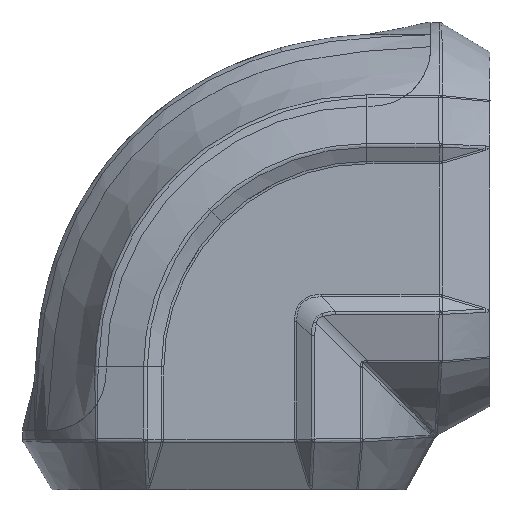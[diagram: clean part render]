
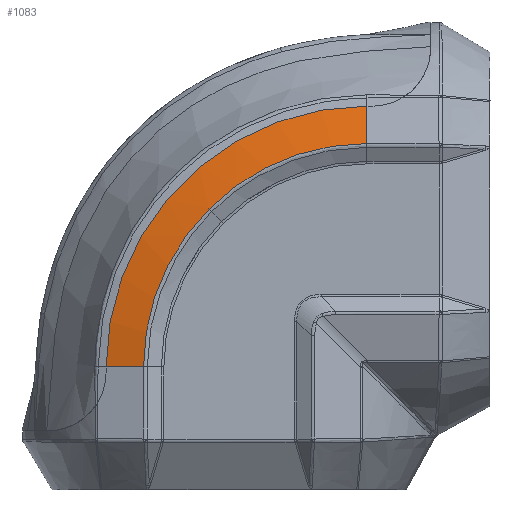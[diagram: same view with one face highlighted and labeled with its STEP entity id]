
A CAD part, front view. The second image highlights one B-rep face of the part: STEP entity #1083.
In plain terms, the highlighted conical face has half-angle 74.358 degrees and reference radius 53 mm.
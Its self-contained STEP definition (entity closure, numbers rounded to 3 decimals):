
#198 = VERTEX_POINT ( 'NONE', #15345 ) ;
#580 = DIRECTION ( 'NONE',  ( 0., 0.27, 0.963 ) ) ;
#954 = VERTEX_POINT ( 'NONE', #40390 ) ;
#1083 = ADVANCED_FACE ( 'NONE', ( #25389 ), #13031, .T. ) ;
#1890 = CARTESIAN_POINT ( 'NONE',  ( 568., -36.187, -28. ) ) ;
#2644 = EDGE_CURVE ( 'NONE', #15959, #954, #43543, .T. ) ;
#2727 = DIRECTION ( 'NONE',  ( 0., 0., 1. ) ) ;
#4968 = CIRCLE ( 'NONE', #13628, 53. ) ;
#5155 = EDGE_CURVE ( 'NONE', #12629, #15959, #8688, .T. ) ;
#5331 = DIRECTION ( 'NONE',  ( 0., 0., 1. ) ) ;
#5897 = CIRCLE ( 'NONE', #15601, 45.405 ) ;
#6187 = ORIENTED_EDGE ( 'NONE', *, *, #36538, .F. ) ;
#6999 = ORIENTED_EDGE ( 'NONE', *, *, #2644, .T. ) ;
#8688 = CIRCLE ( 'NONE', #21772, 45.405 ) ;
#9163 = DIRECTION ( 'NONE',  ( 0.963, -0.27, 0. ) ) ;
#11417 = LINE ( 'NONE', #20292, #30687 ) ;
#12629 = VERTEX_POINT ( 'NONE', #40069 ) ;
#13031 = CONICAL_SURFACE ( 'NONE', #37530, 53., 1.298 ) ;
#13628 = AXIS2_PLACEMENT_3D ( 'NONE', #18677, #42587, #22086 ) ;
#14070 = VERTEX_POINT ( 'NONE', #35969 ) ;
#15345 = CARTESIAN_POINT ( 'NONE',  ( 522.595, -36.187, -28. ) ) ;
#15601 = AXIS2_PLACEMENT_3D ( 'NONE', #1890, #25810, #5331 ) ;
#15959 = VERTEX_POINT ( 'NONE', #43938 ) ;
#17325 = VECTOR ( 'NONE', #580, 1000. ) ;
#18677 = CARTESIAN_POINT ( 'NONE',  ( 568., -34.06, -28. ) ) ;
#19237 = ORIENTED_EDGE ( 'NONE', *, *, #5155, .T. ) ;
#20119 = EDGE_LOOP ( 'NONE', ( #6999, #6187, #34535, #28475, #19237 ) ) ;
#20292 = CARTESIAN_POINT ( 'NONE',  ( 523., -36.3, -28. ) ) ;
#21076 = CARTESIAN_POINT ( 'NONE',  ( 568., -36.3, 17. ) ) ;
#21314 = DIRECTION ( 'NONE',  ( 0., 0., 1. ) ) ;
#21772 = AXIS2_PLACEMENT_3D ( 'NONE', #43725, #23195, #2727 ) ;
#22086 = DIRECTION ( 'NONE',  ( 0., 0., 1. ) ) ;
#23195 = DIRECTION ( 'NONE',  ( 0., 1., 0. ) ) ;
#23546 = DIRECTION ( 'NONE',  ( 0., 1., 0. ) ) ;
#25389 = FACE_OUTER_BOUND ( 'NONE', #20119, .T. ) ;
#25810 = DIRECTION ( 'NONE',  ( 0., 1., 0. ) ) ;
#28475 = ORIENTED_EDGE ( 'NONE', *, *, #42201, .T. ) ;
#30687 = VECTOR ( 'NONE', #9163, 1000. ) ;
#33749 = EDGE_CURVE ( 'NONE', #14070, #198, #11417, .T. ) ;
#34535 = ORIENTED_EDGE ( 'NONE', *, *, #33749, .T. ) ;
#35969 = CARTESIAN_POINT ( 'NONE',  ( 515., -34.06, -28. ) ) ;
#36538 = EDGE_CURVE ( 'NONE', #14070, #954, #4968, .T. ) ;
#37530 = AXIS2_PLACEMENT_3D ( 'NONE', #41797, #23546, #21314 ) ;
#40069 = CARTESIAN_POINT ( 'NONE',  ( 535.894, -36.187, 4.106 ) ) ;
#40390 = CARTESIAN_POINT ( 'NONE',  ( 568., -34.06, 25. ) ) ;
#41797 = CARTESIAN_POINT ( 'NONE',  ( 568., -34.06, -28. ) ) ;
#42201 = EDGE_CURVE ( 'NONE', #198, #12629, #5897, .T. ) ;
#42587 = DIRECTION ( 'NONE',  ( 0., 1., 0. ) ) ;
#43543 = LINE ( 'NONE', #21076, #17325 ) ;
#43725 = CARTESIAN_POINT ( 'NONE',  ( 568., -36.187, -28. ) ) ;
#43938 = CARTESIAN_POINT ( 'NONE',  ( 568., -36.187, 17.405 ) ) ;
